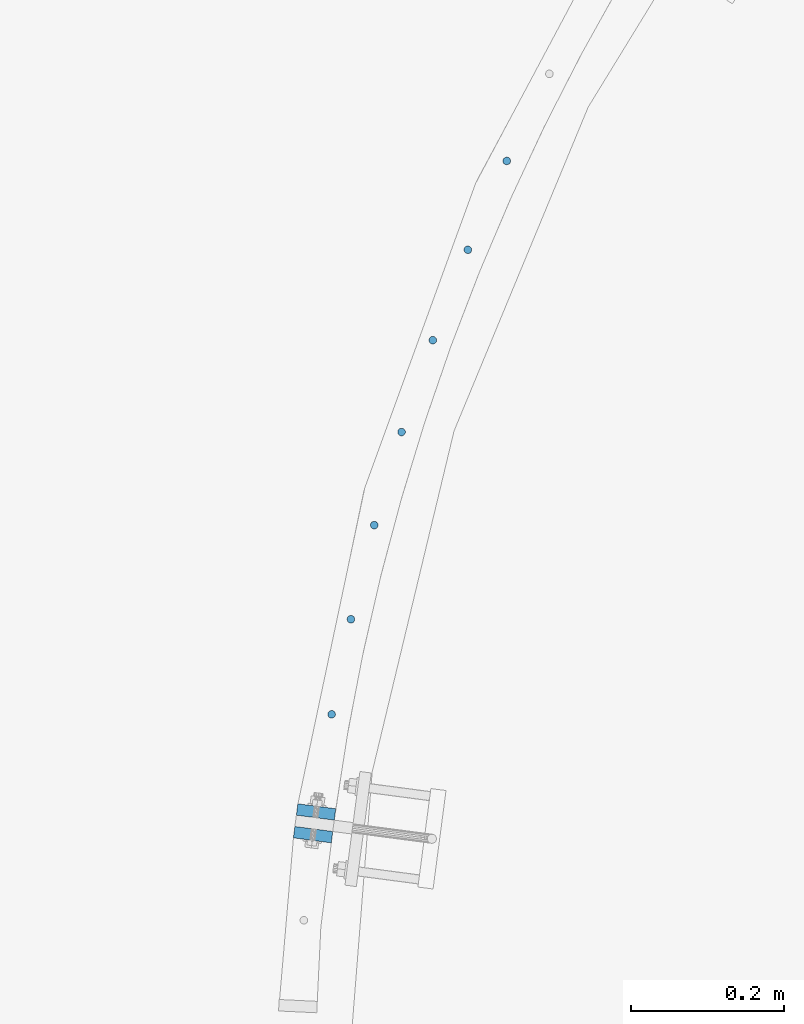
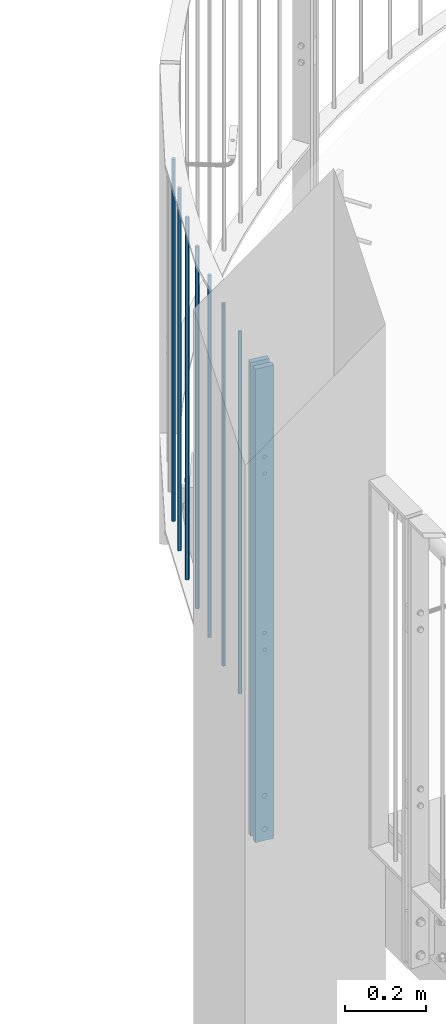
# One storey, part 61 of 296: 9 columns, 12 openings.
"""IFC2X3 building model written with IfcOpenShell, lengths in millimetres."""

from ifc_helpers import new_model, entity, si_unit, converted_unit, frame, frame_2d, origin, origin_with_axes, origin_2d, place, context, project, spatial, rectangle, circle, extrude, material, element, save


model = new_model("IFC2X3")

# Units and contexts
model_context = context("Model", 3, precision=1e-09, world=origin_with_axes())
ifc_project = project(units=[si_unit("LENGTHUNIT", "METRE", prefix="MILLI"), si_unit("AREAUNIT", "SQUARE_METRE"), si_unit("VOLUMEUNIT", "CUBIC_METRE"), converted_unit("PLANEANGLEUNIT", "DEGREE", entity("IfcPlaneAngleMeasure", 0.01745329), si_unit("PLANEANGLEUNIT", "RADIAN"), dimensions=[0, 0, 0, 0, 0, 0, 0])], contexts=[model_context])

# Site, building, storey
site_placement = place(None, origin_with_axes())
site = spatial("IfcSite", under=ifc_project, at=site_placement, Name="TZD-S?d | Treppenhausgel?nder", CompositionType="ELEMENT")
building_placement = place(site_placement, origin_with_axes())
building = spatial("IfcBuilding", under=site, at=building_placement, Name="Struktur 1", CompositionType="ELEMENT")
storey_placement = place(building_placement, origin_with_axes())
storey = spatial("IfcBuildingStorey", under=building, at=storey_placement, Name="Default Storey", CompositionType="ELEMENT", Elevation=0.0)

# Column, openings
ifc_material = material(Name="S235JR")
column_1_placement = place(None, frame((-37.462242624, 305.144987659, 11390.001), z_axis=(0.0, 0.0, -1.0), x_axis=(-0.130526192, -0.991444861, 0.0)))
column_1 = element("IfcColumn", 1, at=column_1_placement, inside=storey, material=ifc_material, Name="-", ObjectType="-", context=model_context, shape_type="SweptSolid", body=[
    extrude(rectangle(XDim=15.0, YDim=50.0, at=origin_2d()), origin(), (0.0, 0.0, -1.0), 1424.999),
])
opening_1_placement = place(column_1_placement, frame((-8.0, 0.0, -85.0), z_axis=(1.0, 0.0, 0.0), x_axis=(0.0, -1.0, 0.0)))
element("IfcOpeningElement", 2, at=opening_1_placement, cuts=column_1, ObjectType="Opening", context=model_context, shape_type="SweptSolid", body=[
    extrude(circle(Radius=7.001, at=frame_2d((0.0, 50.0), x_axis=(1.0, 0.0))), origin(), (0.0, 0.0, 1.0), 16.0),
])
opening_2_placement = place(column_1_placement, frame((-8.0, 0.0, -85.0), z_axis=(1.0, 0.0, 0.0), x_axis=(0.0, -1.0, 0.0)))
element("IfcOpeningElement", 3, at=opening_2_placement, cuts=column_1, ObjectType="Opening", context=model_context, shape_type="SweptSolid", body=[
    extrude(circle(Radius=7.001, at=frame_2d((0.0, -50.0), x_axis=(1.0, 0.0))), origin(), (0.0, 0.0, 1.0), 16.0),
])
opening_3_placement = place(column_1_placement, frame((-8.0, 0.0, -1129.999999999), z_axis=(1.0, 0.0, 0.0), x_axis=(0.0, -1.0, 0.0)))
element("IfcOpeningElement", 4, at=opening_3_placement, cuts=column_1, ObjectType="Opening", context=model_context, shape_type="SweptSolid", body=[
    extrude(circle(Radius=5.001, at=frame_2d((0.0, 25.0), x_axis=(1.0, 0.0))), origin(), (0.0, 0.0, 1.0), 16.0),
])
opening_4_placement = place(column_1_placement, frame((-8.0, 0.0, -1129.999999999), z_axis=(1.0, 0.0, 0.0), x_axis=(0.0, -1.0, 0.0)))
element("IfcOpeningElement", 5, at=opening_4_placement, cuts=column_1, ObjectType="Opening", context=model_context, shape_type="SweptSolid", body=[
    extrude(circle(Radius=5.001, at=frame_2d((0.0, -25.0), x_axis=(1.0, 0.0))), origin(), (0.0, 0.0, 1.0), 16.0),
])
opening_5_placement = place(column_1_placement, frame((-8.0, 0.0, -599.999999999), z_axis=(1.0, 0.0, 0.0), x_axis=(0.0, -1.0, 0.0)))
element("IfcOpeningElement", 6, at=opening_5_placement, cuts=column_1, ObjectType="Opening", context=model_context, shape_type="SweptSolid", body=[
    extrude(circle(Radius=5.001, at=frame_2d((0.0, 25.0), x_axis=(1.0, 0.0))), origin(), (0.0, 0.0, 1.0), 16.0),
])
opening_6_placement = place(column_1_placement, frame((-8.0, 0.0, -599.999999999), z_axis=(1.0, 0.0, 0.0), x_axis=(0.0, -1.0, 0.0)))
element("IfcOpeningElement", 7, at=opening_6_placement, cuts=column_1, ObjectType="Opening", context=model_context, shape_type="SweptSolid", body=[
    extrude(circle(Radius=5.001, at=frame_2d((0.0, -25.0), x_axis=(1.0, 0.0))), origin(), (0.0, 0.0, 1.0), 16.0),
])

column_2_placement = place(None, frame((-41.378028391, 275.401641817, 11390.001), z_axis=(0.0, 0.0, 1.0), x_axis=(0.130526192, 0.991444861, 0.0)))
column_2 = element("IfcColumn", 8, at=column_2_placement, inside=storey, material=ifc_material, Name="-", ObjectType="-", context=model_context, shape_type="SweptSolid", body=[
    extrude(rectangle(XDim=15.0, YDim=50.0, at=origin_2d()), origin(), (0.0, 0.0, 1.0), 1424.999),
])
opening_7_placement = place(column_2_placement, frame((8.0, 0.0, 85.0), z_axis=(-1.0, 0.0, 0.0), x_axis=(0.0, -1.0, 0.0)))
element("IfcOpeningElement", 9, at=opening_7_placement, cuts=column_2, ObjectType="Opening", context=model_context, shape_type="SweptSolid", body=[
    extrude(circle(Radius=7.001, at=frame_2d((0.0, 50.0), x_axis=(1.0, 0.0))), origin(), (0.0, 0.0, 1.0), 16.0),
])
opening_8_placement = place(column_2_placement, frame((8.0, 0.0, 85.0), z_axis=(-1.0, 0.0, 0.0), x_axis=(0.0, -1.0, 0.0)))
element("IfcOpeningElement", 10, at=opening_8_placement, cuts=column_2, ObjectType="Opening", context=model_context, shape_type="SweptSolid", body=[
    extrude(circle(Radius=7.001, at=frame_2d((0.0, -50.0), x_axis=(1.0, 0.0))), origin(), (0.0, 0.0, 1.0), 16.0),
])
opening_9_placement = place(column_2_placement, frame((8.0, 0.0, 1129.999999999), z_axis=(-1.0, 0.0, 0.0), x_axis=(0.0, -1.0, 0.0)))
element("IfcOpeningElement", 11, at=opening_9_placement, cuts=column_2, ObjectType="Opening", context=model_context, shape_type="SweptSolid", body=[
    extrude(circle(Radius=5.001, at=frame_2d((0.0, 25.0), x_axis=(1.0, 0.0))), origin(), (0.0, 0.0, 1.0), 16.0),
])
opening_10_placement = place(column_2_placement, frame((8.0, 0.0, 1129.999999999), z_axis=(-1.0, 0.0, 0.0), x_axis=(0.0, -1.0, 0.0)))
element("IfcOpeningElement", 12, at=opening_10_placement, cuts=column_2, ObjectType="Opening", context=model_context, shape_type="SweptSolid", body=[
    extrude(circle(Radius=5.001, at=frame_2d((0.0, -25.0), x_axis=(1.0, 0.0))), origin(), (0.0, 0.0, 1.0), 16.0),
])
opening_11_placement = place(column_2_placement, frame((8.0, 0.0, 599.999999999), z_axis=(-1.0, 0.0, 0.0), x_axis=(0.0, -1.0, 0.0)))
element("IfcOpeningElement", 13, at=opening_11_placement, cuts=column_2, ObjectType="Opening", context=model_context, shape_type="SweptSolid", body=[
    extrude(circle(Radius=5.001, at=frame_2d((0.0, 25.0), x_axis=(1.0, 0.0))), origin(), (0.0, 0.0, 1.0), 16.0),
])
opening_12_placement = place(column_2_placement, frame((8.0, 0.0, 599.999999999), z_axis=(-1.0, 0.0, 0.0), x_axis=(0.0, -1.0, 0.0)))
element("IfcOpeningElement", 14, at=opening_12_placement, cuts=column_2, ObjectType="Opening", context=model_context, shape_type="SweptSolid", body=[
    extrude(circle(Radius=5.001, at=frame_2d((0.0, -25.0), x_axis=(1.0, 0.0))), origin(), (0.0, 0.0, 1.0), 16.0),
])

# Columns
for number, where, z_axis, x_axis in (
    (15, (-17.115279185, 432.965487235, 11725.0), (0.0, 0.0, 1.0), (0.0, 1.0, 0.0)),
    (16, (8.162299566, 557.381027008, 11725.0), (0.0, 0.0, 1.0), (0.0, 1.0, 0.0)),
    (17, (38.69866828, 680.611350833, 11725.0), (0.0, 0.0, 1.0), (0.0, 1.0, 0.0)),
    (18, (74.438772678, 802.43428571, 11725.0), (0.0, 0.0, 1.0), (0.0, 1.0, 0.0)),
    (19, (115.31817662, 922.63019603, 11725.0), (0.0, 0.0, 1.0), (0.0, 1.0, 0.0)),
    (20, (161.263178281, 1040.982379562, 11725.0), (0.0, 0.0, 1.0), (0.0, 1.0, 0.0)),
    (21, (212.190943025, 1157.277458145, 11725.0), (0.0, 0.0, 1.0), (0.0, 1.0, 0.0)),
):
    element("IfcColumn", number, at=place(None, frame(where, z_axis=z_axis, x_axis=x_axis)), inside=storey, material=ifc_material, Name="-", ObjectType="-", context=model_context, shape_type="SweptSolid", body=[
        extrude(circle(Radius=5.0, at=origin_2d()), origin(), (0.0, 0.0, 1.0), 1090.0),
    ])

save(model, "model.ifc")
